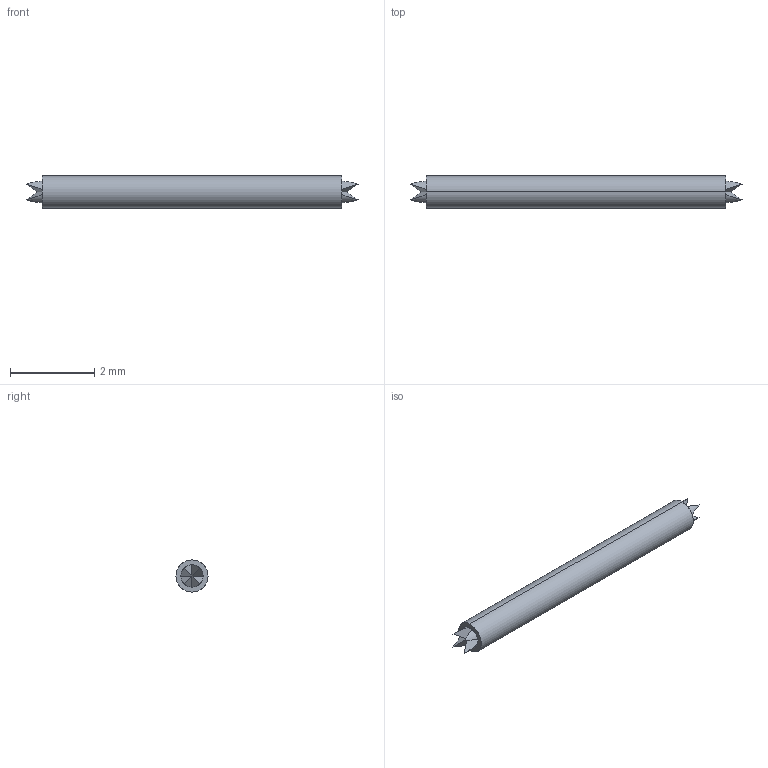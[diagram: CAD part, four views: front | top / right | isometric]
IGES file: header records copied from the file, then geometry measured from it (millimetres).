
Start section: SolidWorks IGES file using analytic representation for surfaces
Global section: file name: Z:\probe solid model mockups\Solidworks models\IGES Files\CSP1-1.27 IGES files\CSP1-1.27LL Full.IGS; native system: SolidWorks 2006 by SolidWorks Corporation; preprocessor: SolidWorks 2006 by SolidWorks Corporation; author: tsakatani; date: 080108.155522; units: inch
Bounding box: 7.87 x 0.76 x 0.76 mm (x, y, z)
Surface area: 19.3 mm2 (no closed solid volume)
Topology: 0 solids, 0 shells, 38 faces, 232 edges, 232 vertices
Faces by surface type: revolution 20, bspline 18
